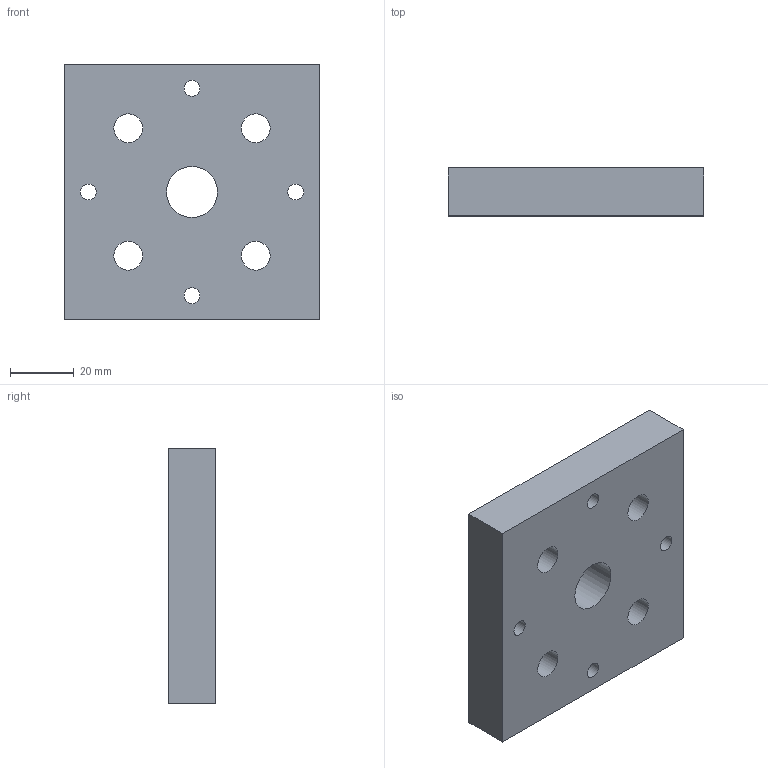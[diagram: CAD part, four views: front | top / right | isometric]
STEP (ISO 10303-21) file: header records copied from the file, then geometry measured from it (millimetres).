
FILE_DESCRIPTION(/* description */ ('Piastra piedino M16 per profilo 80x80'),/* implementation_level */ '2;1');
FILE_NAME(/* name */ 'C:\Users\marco.dallariva\Desktop\x Mattia\MPT80-80M16.stp',/* time_stamp */ '2023-07-10T15:46:29+02:00',/* author */ ('maritza.dallavecchia'),/* organization */ (''),/* preprocessor_version */ 'ST-DEVELOPER v18.1',/* originating_system */ 'Autodesk Inventor 2021',/* authorisation */ '');
FILE_SCHEMA (('AUTOMOTIVE_DESIGN { 1 0 10303 214 3 1 1 }'));
Length unit declared in the file: millimetre
Products named in the file (1): MPT80-80M16
Bounding box: 80 x 15 x 80 mm (x, y, z)
Volume: 86239.5 mm3; surface area: 20235.8 mm2
Topology: 1 solids, 1 shells, 23 faces, 51 edges, 34 vertices
Faces by surface type: cylinder 13, plane 10
Full cylindrical faces by diameter (mm): 5 x4, 9 x4, 13.5 x4, 16 x1
Entity records: 735 total; most frequent: DIRECTION 125, CARTESIAN_POINT 109, ORIENTED_EDGE 102, EDGE_CURVE 51, AXIS2_PLACEMENT_3D 50, EDGE_LOOP 45, VERTEX_POINT 34, CIRCLE 26
